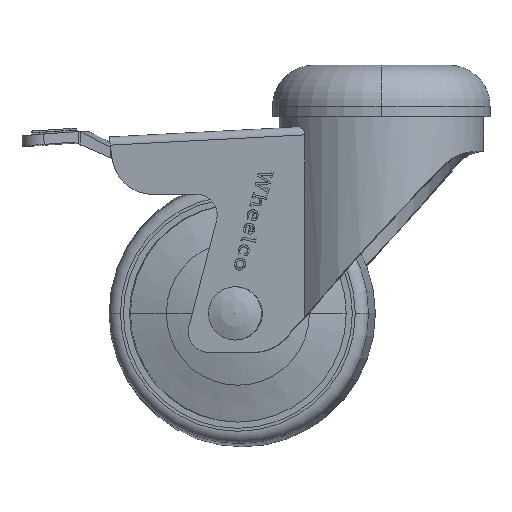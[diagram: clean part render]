
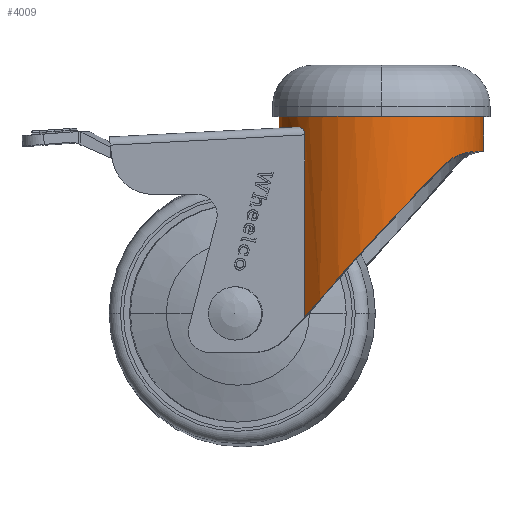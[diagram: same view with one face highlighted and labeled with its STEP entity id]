
A CAD part, top view. The second image highlights one B-rep face of the part: STEP entity #4009.
In plain terms, the highlighted cylindrical face has radius 25 mm (diameter 50 mm), a partial arc.
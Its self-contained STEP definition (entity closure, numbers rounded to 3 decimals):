
#307 = CARTESIAN_POINT ( 'NONE',  ( -17.16, 0.261, 18.183 ) ) ;
#340 =( BOUNDED_CURVE ( )  B_SPLINE_CURVE ( 3, ( #5044, #10154, #1029, #1271 ),
 .UNSPECIFIED., .F., .T. ) 
 B_SPLINE_CURVE_WITH_KNOTS ( ( 4, 4 ),
 ( 3.142, 3.849 ),
 .UNSPECIFIED. ) 
 CURVE ( )  GEOMETRIC_REPRESENTATION_ITEM ( )  RATIONAL_B_SPLINE_CURVE ( ( 1., 0.959, 0.959, 1. ) ) 
 REPRESENTATION_ITEM ( '' )  );
#356 = CYLINDRICAL_SURFACE ( 'NONE', #8626, 25. ) ;
#538 =( BOUNDED_CURVE ( )  B_SPLINE_CURVE ( 3, ( #10672, #10753, #798, #4645 ),
 .UNSPECIFIED., .F., .F. ) 
 B_SPLINE_CURVE_WITH_KNOTS ( ( 4, 4 ),
 ( 0.821, 2.323 ),
 .UNSPECIFIED. ) 
 CURVE ( )  GEOMETRIC_REPRESENTATION_ITEM ( )  RATIONAL_B_SPLINE_CURVE ( ( 1., 0.821, 0.821, 1. ) ) 
 REPRESENTATION_ITEM ( '' )  );
#591 = CIRCLE ( 'NONE', #3198, 25. ) ;
#770 = EDGE_CURVE ( 'NONE', #10050, #8927, #538, .T. ) ;
#798 = CARTESIAN_POINT ( 'NONE',  ( -27.72, 35.313, 6.971 ) ) ;
#1029 = CARTESIAN_POINT ( 'NONE',  ( -11.673, 0.304, 22.913 ) ) ;
#1123 = DIRECTION ( 'NONE',  ( 0., 0., -1. ) ) ;
#1271 = CARTESIAN_POINT ( 'NONE',  ( -16.25, 0.1, 18.998 ) ) ;
#1500 = DIRECTION ( 'NONE',  ( 0., 0., -1. ) ) ;
#1587 = VECTOR ( 'NONE', #10644, 1000. ) ;
#1664 = CARTESIAN_POINT ( 'NONE',  ( 0., -2.5, 25. ) ) ;
#1707 = CARTESIAN_POINT ( 'NONE',  ( -18.303, 9.229, -17.029 ) ) ;
#1790 = CARTESIAN_POINT ( 'NONE',  ( -18.25, 55., 17.086 ) ) ;
#1939 = EDGE_CURVE ( 'NONE', #10031, #10220, #340, .T. ) ;
#2119 = DIRECTION ( 'NONE',  ( 0., -1., 0. ) ) ;
#2276 = CARTESIAN_POINT ( 'NONE',  ( -8.017, 6.011, -23.715 ) ) ;
#2511 = CARTESIAN_POINT ( 'NONE',  ( -18.232, 1.694, 17.106 ) ) ;
#3101 = B_SPLINE_CURVE_WITH_KNOTS ( 'NONE', 3,
 ( #5961, #15964, #11008, #14804, #8668, #4661, #11080, #3585, #7111, #12175, #13720, #13560, #6040, #2276, #15888, #4819 ),
 .UNSPECIFIED., .F., .F.,
 ( 4, 2, 2, 2, 2, 2, 2, 4 ),
 ( 0., 0.002, 0.004, 0.006, 0.008, 0.01, 0.012, 0.016 ),
 .UNSPECIFIED. ) ;
#3178 = CARTESIAN_POINT ( 'NONE',  ( 0., 0.413, 25. ) ) ;
#3198 = AXIS2_PLACEMENT_3D ( 'NONE', #16120, #16206, #1123 ) ;
#3332 = VERTEX_POINT ( 'NONE', #14143 ) ;
#3582 = ORIENTED_EDGE ( 'NONE', *, *, #770, .F. ) ;
#3585 = CARTESIAN_POINT ( 'NONE',  ( -13.804, 6.637, -20.853 ) ) ;
#4009 = ADVANCED_FACE ( 'NONE', ( #6331 ), #356, .T. ) ;
#4064 = CARTESIAN_POINT ( 'NONE',  ( -18.111, 1.262, 17.234 ) ) ;
#4645 = CARTESIAN_POINT ( 'NONE',  ( -18.25, 46.306, 17.086 ) ) ;
#4661 = CARTESIAN_POINT ( 'NONE',  ( -15.338, 7.128, -19.751 ) ) ;
#4819 = CARTESIAN_POINT ( 'NONE',  ( -5.499, 6., -24.388 ) ) ;
#5044 = CARTESIAN_POINT ( 'NONE',  ( 0., 0.413, 25. ) ) ;
#5299 = CARTESIAN_POINT ( 'NONE',  ( -18.161, 1.398, 17.18 ) ) ;
#5588 = VECTOR ( 'NONE', #6781, 1000. ) ;
#5961 = CARTESIAN_POINT ( 'NONE',  ( -18.303, 9.229, -17.029 ) ) ;
#6040 = CARTESIAN_POINT ( 'NONE',  ( -9.827, 6.094, -22.997 ) ) ;
#6200 = LINE ( 'NONE', #11242, #10605 ) ;
#6331 = FACE_OUTER_BOUND ( 'NONE', #7338, .T. ) ;
#6576 = DIRECTION ( 'NONE',  ( 0., -1., 0. ) ) ;
#6781 = DIRECTION ( 'NONE',  ( 0., -1., 0. ) ) ;
#6817 = VERTEX_POINT ( 'NONE', #11232 ) ;
#7111 = CARTESIAN_POINT ( 'NONE',  ( -13.269, 6.516, -21.198 ) ) ;
#7186 = CARTESIAN_POINT ( 'NONE',  ( 0., 6., 0. ) ) ;
#7261 = DIRECTION ( 'NONE',  ( 0., 0., 1. ) ) ;
#7338 = EDGE_LOOP ( 'NONE', ( #13846, #15794, #15569, #15032, #3582, #9373, #14678, #7524, #12941 ) ) ;
#7524 = ORIENTED_EDGE ( 'NONE', *, *, #12300, .T. ) ;
#7617 = EDGE_CURVE ( 'NONE', #10031, #15410, #11884, .T. ) ;
#7760 = CARTESIAN_POINT ( 'NONE',  ( -17.369, 0.371, 17.983 ) ) ;
#8626 = AXIS2_PLACEMENT_3D ( 'NONE', #11709, #6576, #1500 ) ;
#8654 = B_SPLINE_CURVE_WITH_KNOTS ( 'NONE', 3,
 ( #12893, #12570, #14050, #307, #7760, #13797, #8748, #4064, #5299, #2511, #14134, #11496 ),
 .UNSPECIFIED., .F., .F.,
 ( 4, 2, 2, 2, 2, 4 ),
 ( 0., 0.001, 0.002, 0.003, 0.003, 0.004 ),
 .UNSPECIFIED. ) ;
#8668 = CARTESIAN_POINT ( 'NONE',  ( -16.293, 7.582, -18.972 ) ) ;
#8748 = CARTESIAN_POINT ( 'NONE',  ( -17.922, 0.884, 17.431 ) ) ;
#8927 = VERTEX_POINT ( 'NONE', #10470 ) ;
#9065 = CARTESIAN_POINT ( 'NONE',  ( 0., 6., -25. ) ) ;
#9314 = EDGE_CURVE ( 'NONE', #13515, #6817, #13451, .T. ) ;
#9373 = ORIENTED_EDGE ( 'NONE', *, *, #10262, .T. ) ;
#9921 = CARTESIAN_POINT ( 'NONE',  ( -16.25, 0.1, 18.998 ) ) ;
#10031 = VERTEX_POINT ( 'NONE', #3178 ) ;
#10050 = VERTEX_POINT ( 'NONE', #1707 ) ;
#10154 = CARTESIAN_POINT ( 'NONE',  ( -6.023, 0.413, 25. ) ) ;
#10176 = EDGE_CURVE ( 'NONE', #15410, #10615, #591, .T. ) ;
#10220 = VERTEX_POINT ( 'NONE', #9921 ) ;
#10262 = EDGE_CURVE ( 'NONE', #10050, #6817, #3101, .T. ) ;
#10470 = CARTESIAN_POINT ( 'NONE',  ( -18.25, 46.306, 17.086 ) ) ;
#10605 = VECTOR ( 'NONE', #2119, 1000. ) ;
#10615 = VERTEX_POINT ( 'NONE', #11393 ) ;
#10644 = DIRECTION ( 'NONE',  ( 0., -1., 0. ) ) ;
#10672 = CARTESIAN_POINT ( 'NONE',  ( -18.303, 9.229, -17.029 ) ) ;
#10753 = CARTESIAN_POINT ( 'NONE',  ( -27.741, 20.254, -6.885 ) ) ;
#11008 = CARTESIAN_POINT ( 'NONE',  ( -17.568, 8.464, -17.796 ) ) ;
#11080 = CARTESIAN_POINT ( 'NONE',  ( -14.838, 6.943, -20.13 ) ) ;
#11232 = CARTESIAN_POINT ( 'NONE',  ( -5.499, 6., -24.388 ) ) ;
#11242 = CARTESIAN_POINT ( 'NONE',  ( 0., 55., -25. ) ) ;
#11393 = CARTESIAN_POINT ( 'NONE',  ( 0., -2.5, -25. ) ) ;
#11496 = CARTESIAN_POINT ( 'NONE',  ( -18.25, 2.003, 17.086 ) ) ;
#11709 = CARTESIAN_POINT ( 'NONE',  ( 0., 55., 0. ) ) ;
#11762 = LINE ( 'NONE', #1790, #5588 ) ;
#11884 = LINE ( 'NONE', #14113, #1587 ) ;
#12175 = CARTESIAN_POINT ( 'NONE',  ( -12.163, 6.321, -21.851 ) ) ;
#12198 = EDGE_CURVE ( 'NONE', #8927, #3332, #11762, .T. ) ;
#12300 = EDGE_CURVE ( 'NONE', #13515, #10615, #6200, .T. ) ;
#12364 = EDGE_CURVE ( 'NONE', #10220, #3332, #8654, .T. ) ;
#12570 = CARTESIAN_POINT ( 'NONE',  ( -16.486, 0.089, 18.796 ) ) ;
#12893 = CARTESIAN_POINT ( 'NONE',  ( -16.25, 0.1, 18.998 ) ) ;
#12941 = ORIENTED_EDGE ( 'NONE', *, *, #10176, .F. ) ;
#13451 = CIRCLE ( 'NONE', #15568, 25. ) ;
#13515 = VERTEX_POINT ( 'NONE', #9065 ) ;
#13560 = CARTESIAN_POINT ( 'NONE',  ( -10.421, 6.133, -22.734 ) ) ;
#13720 = CARTESIAN_POINT ( 'NONE',  ( -11.591, 6.247, -22.16 ) ) ;
#13797 = CARTESIAN_POINT ( 'NONE',  ( -17.75, 0.682, 17.607 ) ) ;
#13846 = ORIENTED_EDGE ( 'NONE', *, *, #7617, .F. ) ;
#14050 = CARTESIAN_POINT ( 'NONE',  ( -16.716, 0.119, 18.592 ) ) ;
#14113 = CARTESIAN_POINT ( 'NONE',  ( 0., 55., 25. ) ) ;
#14134 = CARTESIAN_POINT ( 'NONE',  ( -18.25, 1.846, 17.086 ) ) ;
#14143 = CARTESIAN_POINT ( 'NONE',  ( -18.25, 2.003, 17.086 ) ) ;
#14678 = ORIENTED_EDGE ( 'NONE', *, *, #9314, .F. ) ;
#14804 = CARTESIAN_POINT ( 'NONE',  ( -16.739, 7.846, -18.578 ) ) ;
#15032 = ORIENTED_EDGE ( 'NONE', *, *, #12198, .F. ) ;
#15410 = VERTEX_POINT ( 'NONE', #1664 ) ;
#15568 = AXIS2_PLACEMENT_3D ( 'NONE', #7186, #16035, #7261 ) ;
#15569 = ORIENTED_EDGE ( 'NONE', *, *, #12364, .T. ) ;
#15794 = ORIENTED_EDGE ( 'NONE', *, *, #1939, .T. ) ;
#15888 = CARTESIAN_POINT ( 'NONE',  ( -6.776, 6., -24.1 ) ) ;
#15964 = CARTESIAN_POINT ( 'NONE',  ( -17.952, 8.818, -17.407 ) ) ;
#16035 = DIRECTION ( 'NONE',  ( 0., 1., 0. ) ) ;
#16120 = CARTESIAN_POINT ( 'NONE',  ( 0., -2.5, 0. ) ) ;
#16206 = DIRECTION ( 'NONE',  ( 0., -1., 0. ) ) ;
